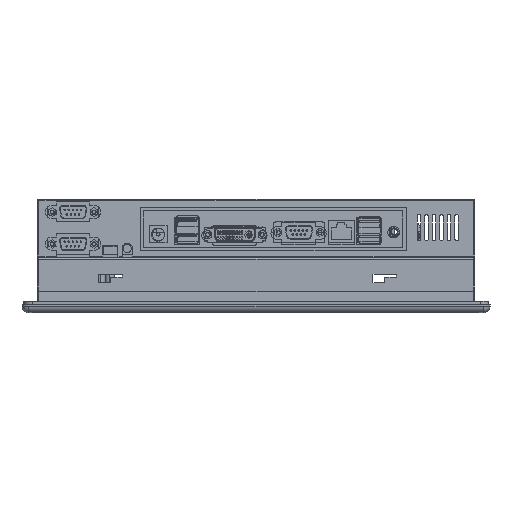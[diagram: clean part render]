
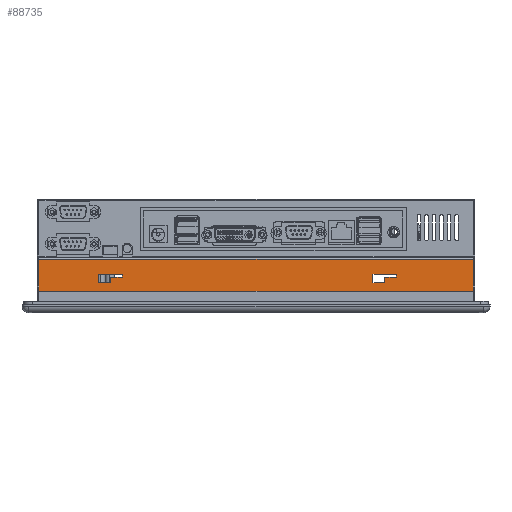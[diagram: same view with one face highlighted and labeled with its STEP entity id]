
A CAD part, front view. The second image highlights one B-rep face of the part: STEP entity #88735.
In plain terms, the highlighted planar face has unit normal (0, -1, 0).
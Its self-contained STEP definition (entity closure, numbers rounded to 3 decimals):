
#6186 = EDGE_CURVE ( 'NONE', #10653, #90980, #94147, .T. ) ;
#6803 = CARTESIAN_POINT ( 'NONE',  ( -157.135, -209., 31.2 ) ) ;
#6891 = CARTESIAN_POINT ( 'NONE',  ( -113.135, -209., 17.2 ) ) ;
#7725 = EDGE_CURVE ( 'NONE', #99942, #124631, #14924, .T. ) ;
#7936 = ORIENTED_EDGE ( 'NONE', *, *, #111062, .F. ) ;
#8339 = DIRECTION ( 'NONE',  ( 0., 0., 1. ) ) ;
#8453 = ORIENTED_EDGE ( 'NONE', *, *, #18754, .T. ) ;
#9114 = DIRECTION ( 'NONE',  ( 1., 0., 0. ) ) ;
#9403 = VERTEX_POINT ( 'NONE', #54733 ) ;
#10544 = EDGE_CURVE ( 'NONE', #88997, #10653, #136940, .T. ) ;
#10653 = VERTEX_POINT ( 'NONE', #6891 ) ;
#10752 = EDGE_CURVE ( 'NONE', #124689, #99942, #103521, .T. ) ;
#10972 = FACE_BOUND ( 'NONE', #104215, .T. ) ;
#14924 = LINE ( 'NONE', #105237, #39921 ) ;
#15267 = VECTOR ( 'NONE', #67067, 1000. ) ;
#15887 = CARTESIAN_POINT ( 'NONE',  ( 43.865, -209., 17.2 ) ) ;
#16165 = CARTESIAN_POINT ( 'NONE',  ( 50.865, -209., 17.2 ) ) ;
#16353 = EDGE_LOOP ( 'NONE', ( #100405, #37214, #64288, #113114, #7936, #106978 ) ) ;
#17046 = LINE ( 'NONE', #134137, #45372 ) ;
#17708 = CARTESIAN_POINT ( 'NONE',  ( -157.135, -209., 67.2 ) ) ;
#18122 = CARTESIAN_POINT ( 'NONE',  ( 43.865, -209., 17.2 ) ) ;
#18312 = CARTESIAN_POINT ( 'NONE',  ( -120.135, -209., 22.2 ) ) ;
#18754 = EDGE_CURVE ( 'NONE', #9403, #27255, #27515, .T. ) ;
#18900 = VECTOR ( 'NONE', #8339, 1000. ) ;
#19555 = CARTESIAN_POINT ( 'NONE',  ( -106.135, -209., 22.2 ) ) ;
#22240 = VERTEX_POINT ( 'NONE', #55669 ) ;
#23582 = VECTOR ( 'NONE', #123213, 1000. ) ;
#23586 = CARTESIAN_POINT ( 'NONE',  ( -113.135, -209., 20.6 ) ) ;
#25639 = LINE ( 'NONE', #137350, #79087 ) ;
#26000 = CARTESIAN_POINT ( 'NONE',  ( -113.135, -209., 17.2 ) ) ;
#27255 = VERTEX_POINT ( 'NONE', #53797 ) ;
#27515 = LINE ( 'NONE', #105771, #52584 ) ;
#28208 = VERTEX_POINT ( 'NONE', #19555 ) ;
#28391 = DIRECTION ( 'NONE',  ( 0., 0., 1. ) ) ;
#36626 = CARTESIAN_POINT ( 'NONE',  ( -106.135, -209., 22.2 ) ) ;
#37212 = VERTEX_POINT ( 'NONE', #38314 ) ;
#37214 = ORIENTED_EDGE ( 'NONE', *, *, #66463, .F. ) ;
#38314 = CARTESIAN_POINT ( 'NONE',  ( 57.865, -209., 22.2 ) ) ;
#39921 = VECTOR ( 'NONE', #9114, 1000. ) ;
#43690 = CARTESIAN_POINT ( 'NONE',  ( -120.135, -209., 17.2 ) ) ;
#43956 = VERTEX_POINT ( 'NONE', #136623 ) ;
#44478 = ORIENTED_EDGE ( 'NONE', *, *, #130454, .F. ) ;
#44682 = VECTOR ( 'NONE', #48323, 1000. ) ;
#44884 = CARTESIAN_POINT ( 'NONE',  ( 50.865, -209., 20.6 ) ) ;
#45372 = VECTOR ( 'NONE', #59547, 1000. ) ;
#45641 = CARTESIAN_POINT ( 'NONE',  ( 43.865, -209., 22.2 ) ) ;
#46186 = CARTESIAN_POINT ( 'NONE',  ( 57.865, -209., 20.6 ) ) ;
#46670 = VECTOR ( 'NONE', #124919, 1000. ) ;
#47405 = DIRECTION ( 'NONE',  ( 1., 0., 0. ) ) ;
#48010 = LINE ( 'NONE', #16165, #44682 ) ;
#48323 = DIRECTION ( 'NONE',  ( 1., 0., 0. ) ) ;
#50029 = VECTOR ( 'NONE', #71120, 1000. ) ;
#52044 = DIRECTION ( 'NONE',  ( -1., 0., 0. ) ) ;
#52584 = VECTOR ( 'NONE', #116544, 1000. ) ;
#53797 = CARTESIAN_POINT ( 'NONE',  ( -156.135, -209., 12.2 ) ) ;
#54733 = CARTESIAN_POINT ( 'NONE',  ( -156.135, -209., 31.2 ) ) ;
#55669 = CARTESIAN_POINT ( 'NONE',  ( 103.865, -209., 31.2 ) ) ;
#56341 = CARTESIAN_POINT ( 'NONE',  ( 103.865, -209., 67.2 ) ) ;
#56449 = DIRECTION ( 'NONE',  ( -1., 0., 0. ) ) ;
#58394 = ORIENTED_EDGE ( 'NONE', *, *, #6186, .F. ) ;
#59547 = DIRECTION ( 'NONE',  ( 1., 0., 0. ) ) ;
#61128 = EDGE_LOOP ( 'NONE', ( #89458, #70178, #67180, #8453 ) ) ;
#62202 = EDGE_CURVE ( 'NONE', #22240, #9403, #106824, .T. ) ;
#64288 = ORIENTED_EDGE ( 'NONE', *, *, #90287, .F. ) ;
#64480 = AXIS2_PLACEMENT_3D ( 'NONE', #17708, #92378, #28391 ) ;
#65791 = VECTOR ( 'NONE', #92261, 1000. ) ;
#65853 = LINE ( 'NONE', #36626, #119295 ) ;
#66463 = EDGE_CURVE ( 'NONE', #131499, #124689, #48010, .T. ) ;
#67067 = DIRECTION ( 'NONE',  ( 0., 0., 1. ) ) ;
#67180 = ORIENTED_EDGE ( 'NONE', *, *, #62202, .T. ) ;
#67320 = ORIENTED_EDGE ( 'NONE', *, *, #81924, .F. ) ;
#68267 = EDGE_CURVE ( 'NONE', #103197, #28208, #65853, .T. ) ;
#70178 = ORIENTED_EDGE ( 'NONE', *, *, #81746, .T. ) ;
#70485 = CARTESIAN_POINT ( 'NONE',  ( -120.135, -209., 17.2 ) ) ;
#71120 = DIRECTION ( 'NONE',  ( -1., 0., 0. ) ) ;
#75421 = ORIENTED_EDGE ( 'NONE', *, *, #101950, .F. ) ;
#77884 = ORIENTED_EDGE ( 'NONE', *, *, #68267, .F. ) ;
#79087 = VECTOR ( 'NONE', #52044, 1000. ) ;
#81486 = VECTOR ( 'NONE', #124177, 1000. ) ;
#81746 = EDGE_CURVE ( 'NONE', #43956, #22240, #100373, .T. ) ;
#81924 = EDGE_CURVE ( 'NONE', #90980, #103197, #17046, .T. ) ;
#82725 = VECTOR ( 'NONE', #123068, 1000. ) ;
#84672 = VERTEX_POINT ( 'NONE', #18312 ) ;
#88735 = ADVANCED_FACE ( 'NONE', ( #117813, #10972, #89380 ), #112923, .F. ) ;
#88997 = VERTEX_POINT ( 'NONE', #43690 ) ;
#89380 = FACE_OUTER_BOUND ( 'NONE', #61128, .T. ) ;
#89458 = ORIENTED_EDGE ( 'NONE', *, *, #104305, .T. ) ;
#89628 = CARTESIAN_POINT ( 'NONE',  ( 50.865, -209., 17.2 ) ) ;
#90287 = EDGE_CURVE ( 'NONE', #116655, #131499, #133697, .T. ) ;
#90980 = VERTEX_POINT ( 'NONE', #23586 ) ;
#92261 = DIRECTION ( 'NONE',  ( 0., 0., 1. ) ) ;
#92378 = DIRECTION ( 'NONE',  ( 0., 1., 0. ) ) ;
#94147 = LINE ( 'NONE', #134679, #65791 ) ;
#97122 = VECTOR ( 'NONE', #56449, 1000. ) ;
#99942 = VERTEX_POINT ( 'NONE', #44884 ) ;
#100373 = LINE ( 'NONE', #56341, #15267 ) ;
#100405 = ORIENTED_EDGE ( 'NONE', *, *, #10752, .F. ) ;
#100440 = LINE ( 'NONE', #45641, #97122 ) ;
#100665 = LINE ( 'NONE', #136125, #18900 ) ;
#101950 = EDGE_CURVE ( 'NONE', #84672, #88997, #109848, .T. ) ;
#103197 = VERTEX_POINT ( 'NONE', #136350 ) ;
#103521 = LINE ( 'NONE', #114194, #46670 ) ;
#104215 = EDGE_LOOP ( 'NONE', ( #58394, #110644, #75421, #44478, #77884, #67320 ) ) ;
#104305 = EDGE_CURVE ( 'NONE', #27255, #43956, #111066, .T. ) ;
#105237 = CARTESIAN_POINT ( 'NONE',  ( 57.865, -209., 20.6 ) ) ;
#105771 = CARTESIAN_POINT ( 'NONE',  ( -156.135, -209., 67.2 ) ) ;
#106824 = LINE ( 'NONE', #6803, #50029 ) ;
#106978 = ORIENTED_EDGE ( 'NONE', *, *, #7725, .F. ) ;
#108634 = VECTOR ( 'NONE', #47405, 1000. ) ;
#109848 = LINE ( 'NONE', #70485, #81486 ) ;
#110644 = ORIENTED_EDGE ( 'NONE', *, *, #10544, .F. ) ;
#111062 = EDGE_CURVE ( 'NONE', #124631, #37212, #100665, .T. ) ;
#111066 = LINE ( 'NONE', #133292, #82725 ) ;
#112923 = PLANE ( 'NONE',  #64480 ) ;
#113114 = ORIENTED_EDGE ( 'NONE', *, *, #121477, .F. ) ;
#114194 = CARTESIAN_POINT ( 'NONE',  ( 50.865, -209., 20.6 ) ) ;
#116544 = DIRECTION ( 'NONE',  ( 0., 0., -1. ) ) ;
#116655 = VERTEX_POINT ( 'NONE', #134945 ) ;
#117813 = FACE_BOUND ( 'NONE', #16353, .T. ) ;
#119295 = VECTOR ( 'NONE', #131843, 1000. ) ;
#121477 = EDGE_CURVE ( 'NONE', #37212, #116655, #100440, .T. ) ;
#123068 = DIRECTION ( 'NONE',  ( 1., 0., 0. ) ) ;
#123213 = DIRECTION ( 'NONE',  ( 0., 0., -1. ) ) ;
#124177 = DIRECTION ( 'NONE',  ( 0., 0., -1. ) ) ;
#124631 = VERTEX_POINT ( 'NONE', #46186 ) ;
#124689 = VERTEX_POINT ( 'NONE', #89628 ) ;
#124919 = DIRECTION ( 'NONE',  ( 0., 0., 1. ) ) ;
#130454 = EDGE_CURVE ( 'NONE', #28208, #84672, #25639, .T. ) ;
#131499 = VERTEX_POINT ( 'NONE', #18122 ) ;
#131843 = DIRECTION ( 'NONE',  ( 0., 0., 1. ) ) ;
#133292 = CARTESIAN_POINT ( 'NONE',  ( -157.135, -209., 12.2 ) ) ;
#133697 = LINE ( 'NONE', #15887, #23582 ) ;
#134137 = CARTESIAN_POINT ( 'NONE',  ( -106.135, -209., 20.6 ) ) ;
#134679 = CARTESIAN_POINT ( 'NONE',  ( -113.135, -209., 20.6 ) ) ;
#134945 = CARTESIAN_POINT ( 'NONE',  ( 43.865, -209., 22.2 ) ) ;
#136125 = CARTESIAN_POINT ( 'NONE',  ( 57.865, -209., 22.2 ) ) ;
#136350 = CARTESIAN_POINT ( 'NONE',  ( -106.135, -209., 20.6 ) ) ;
#136623 = CARTESIAN_POINT ( 'NONE',  ( 103.865, -209., 12.2 ) ) ;
#136940 = LINE ( 'NONE', #26000, #108634 ) ;
#137350 = CARTESIAN_POINT ( 'NONE',  ( -120.135, -209., 22.2 ) ) ;
